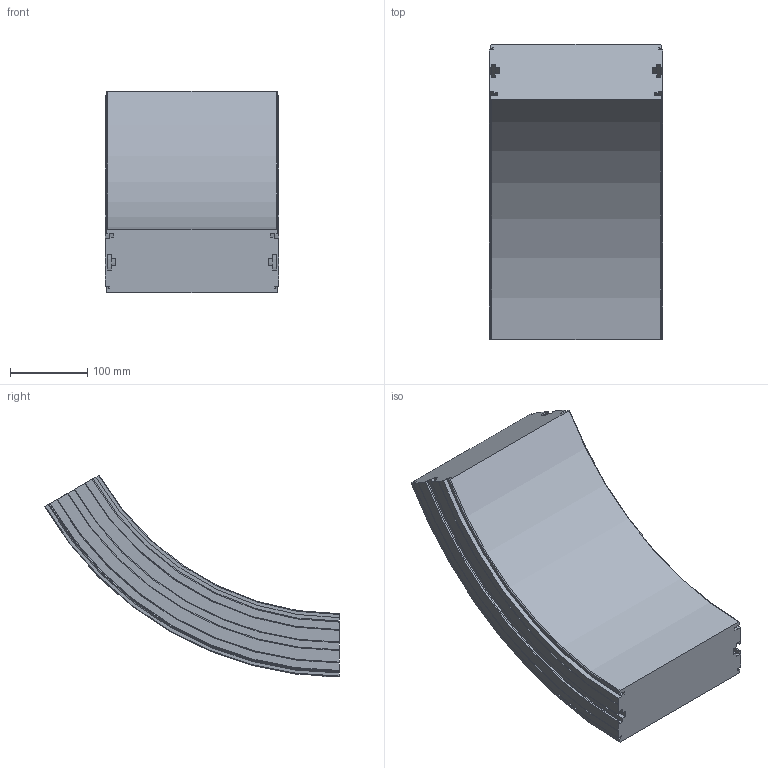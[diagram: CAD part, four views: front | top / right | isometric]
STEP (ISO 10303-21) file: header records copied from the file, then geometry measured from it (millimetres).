
FILE_DESCRIPTION(/* description */ ('VERTIKALKURVA S220 R400'),/* implementation_level */ '2;1');
FILE_NAME(/* name */ '\\carryline.intra\privat\users\mathias\Desktop\Tillfälliga filer\220-5645+220-2000-NER-01.stp',/* time_stamp */ '2018-11-29T13:27:51+01:00',/* author */ ('MD'),/* organization */ ('CARRYLINE'),/* preprocessor_version */ 'ST-DEVELOPER v17',/* originating_system */ 'Autodesk Inventor 2018',/* authorisation */ '');
FILE_SCHEMA (('AUTOMOTIVE_DESIGN { 1 0 10303 214 3 1 1 }'));
Length unit declared in the file: millimetre
Products named in the file (1): 220-5645+220-2000-NER-01
Bounding box: 224 x 380.62 x 260.5 mm (x, y, z)
Volume: 7391401.9 mm3; surface area: 349459.8 mm2
Topology: 1 solids, 1 shells, 113 faces, 318 edges, 212 vertices
Faces by surface type: plane 48, cylinder 31, bspline 14, cone 14, torus 6
Entity records: 8355 total; most frequent: CARTESIAN_POINT 5387, ORIENTED_EDGE 636, DIRECTION 576, EDGE_CURVE 318, VERTEX_POINT 212, AXIS2_PLACEMENT_3D 199, LINE 178, VECTOR 178
